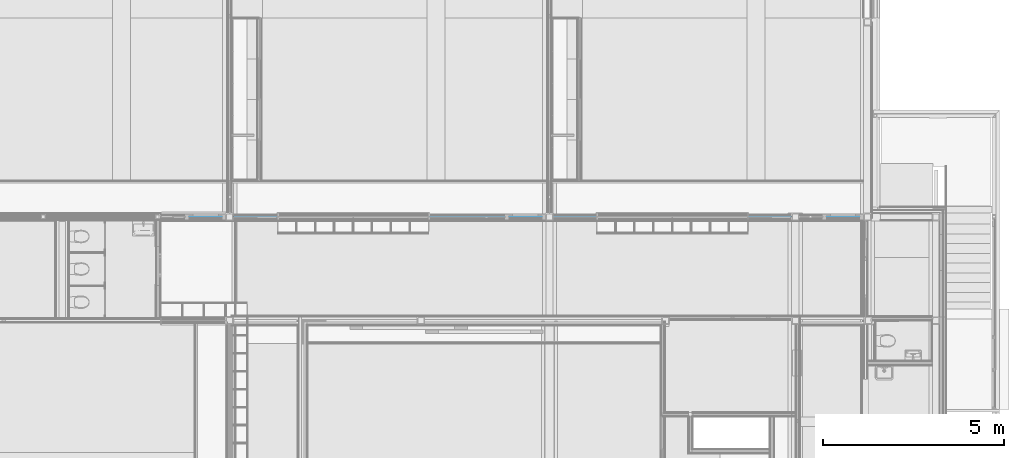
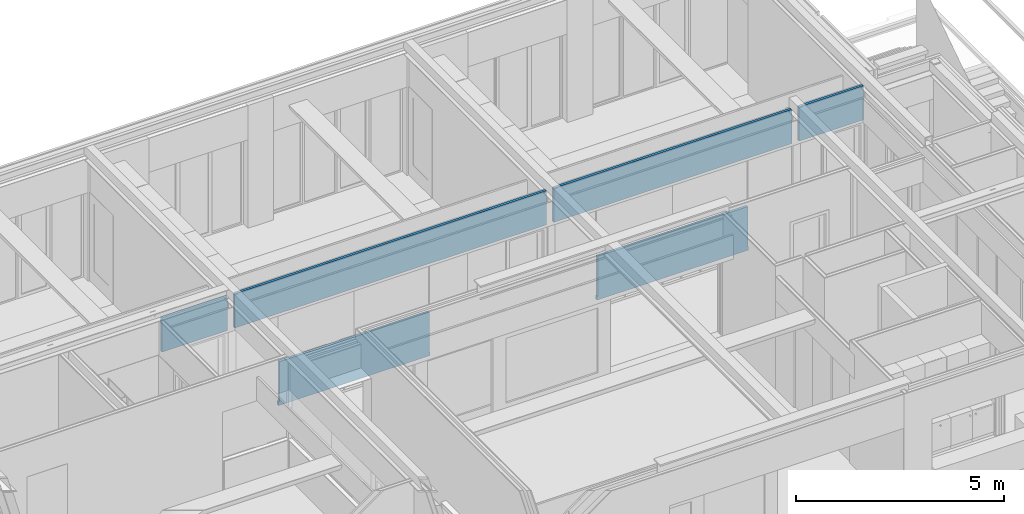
# One storey, part 32 of 165: 1 building element part, 14 openings, 1 element without a shape of its own.
"""IFC2X3 building model written with IfcOpenShell, lengths in millimetres."""

import ifcopenshell
import ifcopenshell.guid

model = None  # the IFC model being written
_history = None  # IfcOwnerHistory: only IFC2X3 demands one
_inside = {}  # id of a spatial element -> (the spatial element, [elements in it])
_under = {}  # id of a project, library or spatial element -> (it, [spatial elements below it])
_declared = {}  # id of a project -> (the project, [libraries it declares])
_typed = {}  # id of a type object -> (the type object, [elements of that type])
_made_of = {}  # id of a material, layer set ... -> (it, [elements and type objects made of it])


def new_model(schema):
    """Start an empty IFC model of exactly this schema.

    Asked for "IFC4X3", IfcOpenShell would pick the latest addendum, in which some entities
    have other attributes; the version numbers below select the first issue.
    IFC2X3 requires an IfcOwnerHistory on every rooted entity: one is made here for all.
    """
    global model, _history
    if schema == "IFC4X3":
        model = ifcopenshell.file(schema_version=(4, 3, 0, 0))
    else:
        model = ifcopenshell.file(schema=schema)
    _inside.clear()
    _under.clear()
    _declared.clear()
    _typed.clear()
    _made_of.clear()
    _history = None
    if model.schema == "IFC2X3":
        org = make("IfcOrganization", Name="unknown")
        user = make(
            "IfcPersonAndOrganization",
            ThePerson=make("IfcPerson", FamilyName="unknown"),
            TheOrganization=org,
        )
        app = make(
            "IfcApplication",
            ApplicationDeveloper=org,
            Version="unknown",
            ApplicationFullName="unknown",
            ApplicationIdentifier="unknown",
        )
        _history = make(
            "IfcOwnerHistory",
            OwningUser=user,
            OwningApplication=app,
            ChangeAction="ADDED",
            CreationDate=0,
        )
    return model


def make(cls, **values):
    """One entity of the class cls with the attributes given. An attribute that is None is left unset."""
    return model.create_entity(
        cls, **{name: value for name, value in values.items() if value is not None}
    )


def entity(cls, *values):
    """Any entity or typed value of the class cls, its attributes in the order of the schema. None: left unset."""
    e = model.create_entity(cls)
    for i, value in enumerate(values):
        if value is not None:
            e[i] = value
    return e


def rooted(cls, **values):
    """An entity with a GlobalId (a new one), such as an element, a storey or a relation."""
    return make(cls, GlobalId=ifcopenshell.guid.new(), OwnerHistory=_history, **values)


def si_unit(unit_type, name, prefix=None):
    """IfcSIUnit, for example si_unit("LENGTHUNIT", "METRE", prefix="MILLI")."""
    return make("IfcSIUnit", UnitType=unit_type, Prefix=prefix, Name=name)


def converted_unit(unit_type, name, factor, base, dimensions=None, offset=None):
    """IfcConversionBasedUnit, such as the inch: factor (a typed value) times the base unit."""
    return make(
        "IfcConversionBasedUnit"
        if offset is None
        else "IfcConversionBasedUnitWithOffset",
        ConversionOffset=offset,
        Dimensions=None
        if dimensions is None
        else entity("IfcDimensionalExponents", *dimensions),
        UnitType=unit_type,
        Name=name,
        ConversionFactor=make(
            "IfcMeasureWithUnit", ValueComponent=factor, UnitComponent=base
        ),
    )


def derived_unit(unit_type, elements):
    """IfcDerivedUnit: a product of units, each with its exponent."""
    return make(
        "IfcDerivedUnit",
        Elements=[
            make("IfcDerivedUnitElement", Unit=unit, Exponent=power)
            for unit, power in elements
        ],
        UnitType=unit_type,
    )


def money_unit(currency):
    """IfcMonetaryUnit."""
    return make("IfcMonetaryUnit", Currency=currency)


def assignment(units):
    """IfcUnitAssignment: the units of a project."""
    return None if units is None else make("IfcUnitAssignment", Units=units)


def point(xyz):
    """IfcCartesianPoint."""
    return None if xyz is None else make("IfcCartesianPoint", Coordinates=xyz)


def direction(xyz):
    """IfcDirection."""
    return None if xyz is None else make("IfcDirection", DirectionRatios=xyz)


def frame(location, z_axis=None, x_axis=None):
    """IfcAxis2Placement3D, a coordinate frame: its origin and axes. An axis left out is left unset."""
    return make(
        "IfcAxis2Placement3D",
        Location=point(location),
        Axis=direction(z_axis),
        RefDirection=direction(x_axis),
    )


def origin_with_axes():
    """The frame at (0, 0, 0) with the z axis (0, 0, 1) and the x axis (1, 0, 0) written out."""
    return frame((0.0, 0.0, 0.0), z_axis=(0.0, 0.0, 1.0), x_axis=(1.0, 0.0, 0.0))


def place(relative_to, where):
    """IfcLocalPlacement: puts the frame where relative to a parent placement (None: the world)."""
    return make(
        "IfcLocalPlacement", PlacementRelTo=relative_to, RelativePlacement=where
    )


def context(
    kind, dimensions, precision=None, world=None, true_north=None, identifier=None
):
    """IfcGeometricRepresentationContext, for example the 3D "Model" context."""
    return make(
        "IfcGeometricRepresentationContext",
        ContextIdentifier=identifier,
        ContextType=kind,
        CoordinateSpaceDimension=dimensions,
        Precision=precision,
        WorldCoordinateSystem=world,
        TrueNorth=true_north,
    )


def subcontext(parent, identifier, kind, view, scale=None):
    """IfcGeometricRepresentationSubContext, for example "Body" below "Model"."""
    return make(
        "IfcGeometricRepresentationSubContext",
        ContextIdentifier=identifier,
        ContextType=kind,
        ParentContext=parent,
        TargetScale=scale,
        TargetView=view,
    )


def project(units=None, contexts=None):
    """IfcProject with its units and contexts."""
    return rooted(
        "IfcProject",
        Name="project",
        RepresentationContexts=contexts,
        UnitsInContext=assignment(units),
    )


def spatial(cls, under=None, at=None, **own):
    """A site, building, storey or space (cls), placed at a placement, below another one or the project."""
    s = rooted(cls, ObjectPlacement=at, **own)
    if under is not None:
        _under.setdefault(under.id(), (under, []))[1].append(s)
    return s


def faces_of(points, faces, orient=None, outer=None):
    """IfcFace entities. A face is a list of loops; a loop is a list of indices into points, from 0.

    orient and outer hold one flag for each loop. By default every Orientation is true, the
    first loop of a face is its IfcFaceOuterBound and the others are IfcFaceBound.
    """
    made = []
    for i, loops in enumerate(faces):
        bounds = []
        for j, loop in enumerate(loops):
            is_outer = j == 0 if outer is None else outer[i][j]
            bounds.append(
                make(
                    "IfcFaceOuterBound" if is_outer else "IfcFaceBound",
                    Bound=make("IfcPolyLoop", Polygon=[points[k] for k in loop]),
                    Orientation=True if orient is None else orient[i][j],
                )
            )
        made.append(make("IfcFace", Bounds=bounds))
    return made


def faceted_brep(points, faces, orient=None, outer=None, voids=None):
    """IfcFacetedBrep: a solid bounded by flat faces; with voids (closed shells), ...WithVoids."""
    shared = [point(p) for p in points]
    hull = make("IfcClosedShell", CfsFaces=faces_of(shared, faces, orient, outer))
    if voids is None:
        return make("IfcFacetedBrep", Outer=hull)
    return make(
        "IfcFacetedBrepWithVoids",
        Outer=hull,
        Voids=[
            make(cls, CfsFaces=faces_of(shared, fs, o, b)) for cls, fs, o, b in voids
        ],
    )


def shape(context_of_items, identifier, shape_type, items):
    """IfcShapeRepresentation: the items that make up one representation, for example the "Body"."""
    return make(
        "IfcShapeRepresentation",
        ContextOfItems=context_of_items,
        RepresentationIdentifier=identifier,
        RepresentationType=shape_type,
        Items=items,
    )


def material(Name=None, Category=None):
    """IfcMaterial."""
    return make("IfcMaterial", Name=Name, Category=Category)


def made_of(thing, what):
    """Note that an element or type object is made of a material, layer set ...; save() writes the relation."""
    if what is not None:
        _made_of.setdefault(what.id(), (what, []))[1].append(thing)
    return thing


def type_object(cls, material=None, **own):
    """A type object (cls), such as IfcWallType, which elements share."""
    return made_of(rooted(cls, **own), material)


def element(
    cls,
    number,
    at=None,
    inside=None,
    cuts=None,
    type_object=None,
    material=None,
    context=None,
    identifier="Body",
    shape_type=None,
    held_by="IfcProductDefinitionShape",
    body=None,
    shapes=None,
    **own,
):
    """One element of the class cls, such as IfcWall. Its Tag is "e" and its number.

    at: its placement. inside: the storey or other place that contains it. cuts: it is an
    opening in that element (IfcRelVoidsElement). A single representation is given by context,
    identifier, shape_type and body (its items); several are given by shapes. held_by: the class
    of the entity that holds the representations. save() writes the other relations.
    """
    e = rooted(cls, Tag="e%d" % number, ObjectPlacement=at, **own)
    if body is not None:
        shapes = [shape(context, identifier, shape_type, body)]
    if shapes is not None:
        e.Representation = make(held_by, Representations=shapes)
    if inside is not None:
        _inside.setdefault(inside.id(), (inside, []))[1].append(e)
    if cuts is not None:
        rooted(
            "IfcRelVoidsElement", RelatingBuildingElement=cuts, RelatedOpeningElement=e
        )
    if type_object is not None:
        _typed.setdefault(type_object.id(), (type_object, []))[1].append(e)
    return made_of(e, material)


def aggregate(whole, parts):
    """IfcRelAggregates: a whole, such as a stair, and the parts it consists of."""
    return rooted("IfcRelAggregates", RelatingObject=whole, RelatedObjects=parts)


def save(model, path):
    """Write the relations noted so far, then the file.

    IfcRelAggregates (storeys below a building ...), IfcRelContainedInSpatialStructure (elements
    in a storey), IfcRelDefinesByType, IfcRelAssociatesMaterial and IfcRelDeclares: one each for
    every whole, place, type object, material and project.
    """
    for whole, parts in _under.values():
        aggregate(whole, parts)
    for where, things in _inside.values():
        rooted(
            "IfcRelContainedInSpatialStructure",
            RelatedElements=things,
            RelatingStructure=where,
        )
    for kind, things in _typed.values():
        rooted("IfcRelDefinesByType", RelatedObjects=things, RelatingType=kind)
    for what, things in _made_of.values():
        rooted("IfcRelAssociatesMaterial", RelatedObjects=things, RelatingMaterial=what)
    for by, libraries in _declared.values():
        rooted("IfcRelDeclares", RelatingContext=by, RelatedDefinitions=libraries)
    model.write(path)


model = new_model("IFC2X3")

# Units and contexts
model_context = context("Model", 3, precision=0.01, world=origin_with_axes(), true_north=direction((0.0, 1.0)))
body_context = subcontext(model_context, "Body", "Model", "MODEL_VIEW")
ifc_project = project(units=[si_unit("LENGTHUNIT", "METRE", prefix="MILLI"), si_unit("AREAUNIT", "SQUARE_METRE"), si_unit("VOLUMEUNIT", "CUBIC_METRE"), converted_unit("PLANEANGLEUNIT", "DEGREE", entity("IfcPlaneAngleMeasure", 0.0174532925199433), si_unit("PLANEANGLEUNIT", "RADIAN"), dimensions=[0, 0, 0, 0, 0, 0, 0]), money_unit("EUR"), converted_unit("TIMEUNIT", "Year", entity("IfcTimeMeasure", 31556926.0), si_unit("TIMEUNIT", "SECOND"), dimensions=[0, 0, 1, 0, 0, 0, 0]), si_unit("MASSUNIT", "GRAM", prefix="KILO"), si_unit("THERMODYNAMICTEMPERATUREUNIT", "DEGREE_CELSIUS"), si_unit("LUMINOUSINTENSITYUNIT", "LUMEN"), si_unit("ENERGYUNIT", "JOULE", prefix="MEGA"), derived_unit("THERMALCONDUCTANCEUNIT", [(si_unit("POWERUNIT", "WATT"), 1), (si_unit("LENGTHUNIT", "METRE"), -1), (si_unit("THERMODYNAMICTEMPERATUREUNIT", "KELVIN"), -1)]), derived_unit("SPECIFICHEATCAPACITYUNIT", [(si_unit("ENERGYUNIT", "JOULE"), 1), (si_unit("MASSUNIT", "GRAM", prefix="KILO"), -1), (si_unit("THERMODYNAMICTEMPERATUREUNIT", "KELVIN"), -1)]), derived_unit("MASSDENSITYUNIT", [(si_unit("MASSUNIT", "GRAM", prefix="KILO"), 1), (si_unit("VOLUMEUNIT", "CUBIC_METRE"), -1)])], contexts=[model_context])

# Site, building, storey
site_placement = place(None, origin_with_axes())
site = spatial("IfcSite", under=ifc_project, at=site_placement, Name="Site", CompositionType="ELEMENT")
building_placement = place(site_placement, origin_with_axes())
building = spatial("IfcBuilding", under=site, at=building_placement, Name="Naam gebouw", CompositionType="ELEMENT")
storey_placement = place(building_placement, origin_with_axes())
storey = spatial("IfcBuildingStorey", under=building, at=storey_placement, Name="Begane grond", CompositionType="ELEMENT", Elevation=0.0)

# Proxy, openings, building element part
building_element_proxy_type = type_object("IfcBuildingElementProxyType", Name="22 Metal stud 125 gips 125", PredefinedType="NOTDEFINED")
proxy_placement = place(storey_placement, frame((6940.0, 22324.99474661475, -100.0), z_axis=(0.0, 0.0, 1.0), x_axis=(0.9999999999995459, -9.530261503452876e-07, 0.0)))
proxy = element("IfcBuildingElementProxy", 1, at=proxy_placement, inside=storey, type_object=building_element_proxy_type, Name="_Wand-x")
opening_1_placement = place(proxy_placement, frame((11459.99904000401, 0.0, 100.0), z_axis=(0.0, 0.0, 1.0), x_axis=(1.0, 0.0, 0.0)))
element("IfcOpeningElement", 2, at=opening_1_placement, cuts=proxy, Name="_B.01", context=body_context, shape_type="Brep", body=[
    faceted_brep([(600.0000000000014, -12.50000000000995, -100.0000000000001), (600.0000000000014, -12.50000000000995, 2600.0), (600.0000000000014, -63.51853254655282, 2600.0), (600.0000000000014, -63.51853254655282, -100.0000000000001), (600.0000000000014, 63.51853254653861, -100.0000000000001), (600.0000000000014, 63.51853254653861, 2600.0), (-599.9999999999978, -12.50000000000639, 2600.0), (-599.9999999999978, -63.51853254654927, 2600.0), (-600.0000000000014, 63.51853254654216, 2600.0), (-599.9999999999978, -63.51853254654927, -100.0000000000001), (-599.9999999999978, -12.50000000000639, -100.0000000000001), (-600.0000000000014, 63.51853254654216, -100.0000000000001)], [[[0, 1, 2, 3]], [[1, 0, 4, 5]], [[6, 7, 2, 1, 5, 8]], [[7, 9, 3, 2]], [[0, 3, 9, 10, 11, 4]], [[5, 4, 11, 8]], [[6, 10, 9, 7]], [[10, 6, 8, 11]]]),
])
opening_2_placement = place(proxy_placement, frame((7954.999824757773, 0.0, 100.0), z_axis=(0.0, 0.0, 1.0), x_axis=(1.0, 0.0, 0.0)))
element("IfcOpeningElement", 3, at=opening_2_placement, cuts=proxy, Name="_B.06", context=body_context, shape_type="Brep", body=[
    faceted_brep([(524.9998247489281, -12.50000000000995, -100.0000000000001), (524.9998247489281, -12.50000000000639, 2600.0), (524.9998247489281, -63.51853254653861, 2600.0), (524.9998247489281, -63.51853254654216, -100.0000000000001), (524.9998247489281, 63.5185325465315, -100.0000000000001), (524.9998247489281, 63.51853254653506, 2600.0), (-524.9998247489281, -12.50000000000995, 2600.0), (-524.9998247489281, -63.51853254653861, 2600.0), (-524.9998247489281, 63.51853254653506, 2600.0), (-524.9998247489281, -63.51853254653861, -100.0000000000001), (-524.9998247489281, -12.50000000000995, -100.0000000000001), (-524.9998247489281, 63.51853254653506, -100.0000000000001)], [[[0, 1, 2, 3]], [[1, 0, 4, 5]], [[6, 7, 2, 1, 5, 8]], [[7, 9, 3, 2]], [[0, 3, 9, 10, 11, 4]], [[5, 4, 11, 8]], [[6, 10, 9, 7]], [[10, 6, 8, 11]]]),
])
opening_3_placement = place(proxy_placement, frame((16859.99904000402, 0.0, 100.0), z_axis=(0.0, 0.0, 1.0), x_axis=(1.0, 0.0, 0.0)))
element("IfcOpeningElement", 4, at=opening_3_placement, cuts=proxy, Name="_B.01", context=body_context, shape_type="Brep", body=[
    faceted_brep([(599.9999999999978, -12.50000000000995, -100.0000000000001), (599.9999999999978, -12.50000000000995, 2600.0), (599.9999999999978, -63.51853254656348, 2600.0), (599.9999999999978, -63.51853254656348, -100.0000000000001), (599.9999999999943, 63.5185325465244, -100.0000000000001), (599.9999999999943, 63.5185325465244, 2600.0), (-600.0000000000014, -12.50000000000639, 2600.0), (-600.0000000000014, -63.51853254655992, 2600.0), (-600.0000000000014, 63.51853254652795, 2600.0), (-600.0000000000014, -63.51853254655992, -100.0000000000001), (-600.0000000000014, -12.50000000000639, -100.0000000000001), (-600.0000000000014, 63.51853254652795, -100.0000000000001)], [[[0, 1, 2, 3]], [[1, 0, 4, 5]], [[6, 7, 2, 1, 5, 8]], [[7, 9, 3, 2]], [[0, 3, 9, 10, 11, 4]], [[5, 4, 11, 8]], [[6, 10, 9, 7]], [[10, 6, 8, 11]]]),
])
opening_4_placement = place(proxy_placement, frame((13109.999040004, 0.0, 1300.0), z_axis=(0.0, 0.0, 1.0), x_axis=(1.0, 0.0, 0.0)))
element("IfcOpeningElement", 5, at=opening_4_placement, cuts=proxy, Name="_C.01", context=body_context, shape_type="Brep", body=[
    faceted_brep([(1049.999999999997, -12.50000000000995, 0.0), (1049.999999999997, -12.50000000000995, 1400.0), (1049.999999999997, -63.51853254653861, 1400.0), (1049.999999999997, -63.51853254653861, 0.0), (1049.999999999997, 63.51853254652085, 0.0), (1049.999999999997, 63.51853254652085, 1400.0), (-1049.99999999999, -12.50000000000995, 1400.0), (-1049.999999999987, -63.51853254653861, 1400.0), (-1049.99999999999, 63.5185325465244, 1400.0), (-1049.999999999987, -63.51853254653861, 0.0), (-1049.99999999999, -12.50000000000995, 0.0), (-1049.99999999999, 63.5185325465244, 0.0)], [[[0, 1, 2, 3]], [[1, 0, 4, 5]], [[6, 7, 2, 1, 5, 8]], [[7, 9, 3, 2]], [[0, 3, 9, 10, 11, 4]], [[5, 4, 11, 8]], [[6, 10, 9, 7]], [[10, 6, 8, 11]]]),
])
opening_5_placement = place(proxy_placement, frame((15209.99904000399, 0.0, 1300.000000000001), z_axis=(0.0, 0.0, 1.0), x_axis=(1.0, 0.0, 0.0)))
element("IfcOpeningElement", 6, at=opening_5_placement, cuts=proxy, Name="_C.01", context=body_context, shape_type="Brep", body=[
    faceted_brep([(1050.000000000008, -12.5000000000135, 0.0), (1050.000000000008, -12.5000000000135, 1400.0), (1050.000000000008, -63.51853254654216, 1400.0), (1050.000000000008, -63.51853254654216, 0.0), (1050.000000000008, 63.51853254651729, 0.0), (1050.000000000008, 63.51853254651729, 1400.0), (-1050.000000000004, -12.50000000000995, 1400.0), (-1050.000000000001, -63.51853254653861, 1400.0), (-1050.000000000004, 63.51853254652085, 1400.0), (-1050.000000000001, -63.51853254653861, 0.0), (-1050.000000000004, -12.50000000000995, 0.0), (-1050.000000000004, 63.51853254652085, 0.0)], [[[0, 1, 2, 3]], [[1, 0, 4, 5]], [[6, 7, 2, 1, 5, 8]], [[7, 9, 3, 2]], [[0, 3, 9, 10, 11, 4]], [[5, 4, 11, 8]], [[6, 10, 9, 7]], [[10, 6, 8, 11]]]),
])
opening_6_placement = place(proxy_placement, frame((2620.000000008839, 0.0, 100.0), z_axis=(0.0, 0.0, 1.0), x_axis=(1.0, 0.0, 0.0)))
element("IfcOpeningElement", 7, at=opening_6_placement, cuts=proxy, Name="_B.03", context=body_context, shape_type="Brep", body=[
    faceted_brep([(610.0000000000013, -12.50000000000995, -100.0000000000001), (610.0000000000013, -12.50000000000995, 2600.0), (610.0000000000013, -63.51853254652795, 2600.0), (610.0000000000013, -63.51853254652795, -100.0000000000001), (610.0000000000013, 63.51853254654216, -100.0000000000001), (610.0000000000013, 63.51853254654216, 2600.0), (-610.0000000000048, -12.50000000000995, 2600.0), (-610.0000000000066, -63.51853254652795, 2600.0), (-610.0000000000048, 63.51853254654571, 2600.0), (-610.0000000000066, -63.51853254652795, -100.0000000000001), (-610.0000000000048, -12.50000000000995, -100.0000000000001), (-610.0000000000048, 63.51853254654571, -100.0000000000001)], [[[0, 1, 2, 3]], [[1, 0, 4, 5]], [[6, 7, 2, 1, 5, 8]], [[7, 9, 3, 2]], [[0, 3, 9, 10, 11, 4]], [[5, 4, 11, 8]], [[6, 10, 9, 7]], [[10, 6, 8, 11]]]),
])
opening_7_placement = place(proxy_placement, frame((4280.000000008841, 0.0, 1300.0), z_axis=(0.0, 0.0, 1.0), x_axis=(1.0, 0.0, 0.0)))
element("IfcOpeningElement", 8, at=opening_7_placement, cuts=proxy, Name="_C.01", context=body_context, shape_type="Brep", body=[
    faceted_brep([(1049.999999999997, -12.50000000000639, 0.0), (1049.999999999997, -12.50000000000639, 1400.0), (1049.999999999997, -63.5185325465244, 1400.0), (1049.999999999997, -63.5185325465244, 0.0), (1049.999999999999, 63.51853254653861, 0.0), (1049.999999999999, 63.51853254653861, 1400.0), (-1049.999999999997, -12.50000000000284, 1400.0), (-1049.999999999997, -63.51853254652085, 1400.0), (-1049.999999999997, 63.51853254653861, 1400.0), (-1049.999999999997, -63.51853254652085, 0.0), (-1049.999999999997, -12.50000000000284, 0.0), (-1049.999999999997, 63.51853254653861, 0.0)], [[[0, 1, 2, 3]], [[1, 0, 4, 5]], [[6, 7, 2, 1, 5, 8]], [[7, 9, 3, 2]], [[0, 3, 9, 10, 11, 4]], [[5, 4, 11, 8]], [[6, 10, 9, 7]], [[10, 6, 8, 11]]]),
])
opening_8_placement = place(proxy_placement, frame((9004.999474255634, 0.0, 100.0), z_axis=(0.0, 0.0, 1.0), x_axis=(1.0, 0.0, 0.0)))
element("IfcOpeningElement", 9, at=opening_8_placement, cuts=proxy, Name="_B.06", context=body_context, shape_type="Brep", body=[
    faceted_brep([(524.9998247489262, -12.50000000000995, -100.0000000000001), (524.9998247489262, -12.50000000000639, 2600.0), (524.9998247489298, -63.51853254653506, 2600.0), (524.9998247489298, -63.51853254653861, -100.0000000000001), (524.9998247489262, 63.51853254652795, -100.0000000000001), (524.9998247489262, 63.5185325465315, 2600.0), (-524.9998247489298, -12.50000000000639, 2600.0), (-524.9998247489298, -63.51853254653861, 2600.0), (-524.9998247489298, 63.5185325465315, 2600.0), (-524.9998247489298, -63.51853254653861, -100.0000000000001), (-524.9998247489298, -12.50000000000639, -100.0000000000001), (-524.9998247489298, 63.5185325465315, -100.0000000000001)], [[[0, 1, 2, 3]], [[1, 0, 4, 5]], [[6, 7, 2, 1, 5, 8]], [[7, 9, 3, 2]], [[0, 3, 9, 10, 11, 4]], [[5, 4, 11, 8]], [[6, 10, 9, 7]], [[10, 6, 8, 11]]]),
])
opening_9_placement = place(proxy_placement, frame((17987.99955956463, 0.0, 100.0), z_axis=(0.0, 0.0, 1.0), x_axis=(1.0, 0.0, 0.0)))
element("IfcOpeningElement", 10, at=opening_9_placement, cuts=proxy, Name="_B.09", context=body_context, shape_type="Brep", body=[
    faceted_brep([(-328.0004950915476, 12.49999999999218, -100.0000000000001), (-328.0004950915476, 12.49999999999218, 2600.0), (-328.0004950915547, 63.51853254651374, 2600.0), (-328.0004950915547, 63.51853254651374, -100.0000000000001), (-328.0004950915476, -63.51853254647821, -100.0000000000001), (-328.0004950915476, -63.51853254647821, 2600.0), (328.0004950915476, 12.49999999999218, 2600.0), (328.0004950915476, 63.51853254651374, 2600.0), (328.0004950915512, -63.51853254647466, 2600.0), (328.0004950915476, 63.51853254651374, -100.0000000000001), (328.0004950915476, 12.49999999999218, -100.0000000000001), (328.0004950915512, -63.51853254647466, -100.0000000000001)], [[[0, 1, 2, 3]], [[1, 0, 4, 5]], [[6, 7, 2, 1, 5, 8]], [[7, 9, 3, 2]], [[0, 3, 9, 10, 11, 4]], [[5, 4, 11, 8]], [[6, 10, 9, 7]], [[10, 6, 8, 11]]]),
])
opening_10_placement = place(proxy_placement, frame((18881.00000000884, 0.0, 100.0), z_axis=(0.0, 0.0, 1.0), x_axis=(1.0, 0.0, 0.0)))
element("IfcOpeningElement", 11, at=opening_10_placement, cuts=proxy, Name="_01.01", context=body_context, shape_type="Brep", body=[
    faceted_brep([(-564.9999999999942, -63.51853254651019, 2600.0), (-564.9999999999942, -63.51853254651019, -100.0000000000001), (565.0000000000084, -63.51853254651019, -100.0000000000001), (565.0000000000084, -63.51853254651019, 2600.0), (-564.9999999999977, 63.51853254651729, 2600.0), (-564.9999999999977, 63.51853254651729, -100.0000000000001), (565.0000000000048, 63.51853254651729, -100.0000000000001), (565.0000000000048, 63.51853254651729, 2600.0)], [[[0, 1, 2, 3]], [[4, 5, 1, 0]], [[5, 6, 2, 1]], [[6, 7, 3, 2]], [[7, 4, 0, 3]], [[6, 5, 4, 7]]]),
])
opening_11_placement = place(proxy_placement, frame((10094.99953887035, 0.0, 100.0), z_axis=(0.0, 0.0, 1.0), x_axis=(1.0, 0.0, 0.0)))
element("IfcOpeningElement", 12, at=opening_11_placement, cuts=proxy, Name="_01.01", context=body_context, shape_type="Brep", body=[
    faceted_brep([(-564.9999999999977, -63.51853254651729, 2600.0), (-564.9999999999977, -63.51853254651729, -100.0000000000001), (565.0000000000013, -63.51853254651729, -100.0000000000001), (565.0000000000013, -63.51853254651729, 2600.0), (-565.0000000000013, 63.51853254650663, 2600.0), (-565.0000000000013, 63.51853254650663, -100.0000000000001), (565.0000000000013, 63.51853254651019, -100.0000000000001), (565.0000000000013, 63.51853254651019, 2600.0)], [[[0, 1, 2, 3]], [[4, 5, 1, 0]], [[5, 6, 2, 1]], [[6, 7, 3, 2]], [[7, 4, 0, 3]], [[6, 5, 4, 7]]]),
])
opening_12_placement = place(proxy_placement, frame((6380.000000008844, 0.0, 1300.0), z_axis=(0.0, 0.0, 1.0), x_axis=(1.0, 0.0, 0.0)))
element("IfcOpeningElement", 13, at=opening_12_placement, cuts=proxy, Name="_C.01", context=body_context, shape_type="Brep", body=[
    faceted_brep([(1050.000000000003, -12.50000000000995, 0.0), (1050.000000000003, -12.50000000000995, 1400.0), (1050.000000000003, -63.51853254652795, 1400.0), (1050.000000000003, -63.51853254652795, 0.0), (1050.000000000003, 63.51853254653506, 0.0), (1050.000000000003, 63.51853254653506, 1400.0), (-1050.000000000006, -12.50000000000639, 1400.0), (-1050.000000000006, -63.5185325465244, 1400.0), (-1050.000000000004, 63.51853254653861, 1400.0), (-1050.000000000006, -63.5185325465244, 0.0), (-1050.000000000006, -12.50000000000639, 0.0), (-1050.000000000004, 63.51853254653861, 0.0)], [[[0, 1, 2, 3]], [[1, 0, 4, 5]], [[6, 7, 2, 1, 5, 8]], [[7, 9, 3, 2]], [[0, 3, 9, 10, 11, 4]], [[5, 4, 11, 8]], [[6, 10, 9, 7]], [[10, 6, 8, 11]]]),
])
opening_13_placement = place(proxy_placement, frame((1245.000071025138, 0.0, 100.0), z_axis=(0.0, 0.0, 1.0), x_axis=(1.0, 0.0, 0.0)))
element("IfcOpeningElement", 14, at=opening_13_placement, cuts=proxy, Name="_01.01", context=body_context, shape_type="Brep", body=[
    faceted_brep([(-565.0000000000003, -63.51853254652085, 2600.0), (-565.0000000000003, -63.51853254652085, -100.0000000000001), (564.9999999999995, -63.51853254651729, -100.0000000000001), (564.9999999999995, -63.51853254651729, 2600.0), (-565.0000000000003, 63.51853254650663, 2600.0), (-565.0000000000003, 63.51853254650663, -100.0000000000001), (564.9999999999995, 63.51853254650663, -100.0000000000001), (564.9999999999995, 63.51853254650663, 2600.0)], [[[0, 1, 2, 3]], [[4, 5, 1, 0]], [[5, 6, 2, 1]], [[6, 7, 3, 2]], [[7, 4, 0, 3]], [[6, 5, 4, 7]]]),
])
opening_14_placement = place(proxy_placement, frame((340.0001105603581, 0.0, 100.0), z_axis=(0.0, 0.0, 1.0), x_axis=(1.0, 0.0, 0.0)))
element("IfcOpeningElement", 15, at=opening_14_placement, cuts=proxy, Name="_B.07", context=body_context, shape_type="Brep", body=[
    faceted_brep([(-339.9999604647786, 12.49999999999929, -100.0000000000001), (-339.9999604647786, 12.49999999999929, 2600.0), (-339.9999604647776, 63.51853254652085, 2600.0), (-339.9999604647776, 63.51853254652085, -100.0000000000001), (-339.9999604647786, -63.51853254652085, -100.0000000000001), (-339.9999604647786, -63.51853254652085, 2600.0), (339.9999604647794, 12.49999999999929, 2600.0), (339.9999604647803, 63.51853254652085, 2600.0), (339.9999604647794, -63.5185325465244, 2600.0), (339.9999604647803, 63.51853254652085, -100.0000000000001), (339.9999604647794, 12.49999999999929, -100.0000000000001), (339.9999604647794, -63.5185325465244, -100.0000000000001)], [[[0, 1, 2, 3]], [[1, 0, 4, 5]], [[6, 7, 2, 1, 5, 8]], [[7, 9, 3, 2]], [[0, 3, 9, 10, 11, 4]], [[5, 4, 11, 8]], [[6, 10, 9, 7]], [[10, 6, 8, 11]]]),
])
ifc_material = material(Name="ALG - LICHTE SCHEIDINGSWAND")
building_element_part_placement = place(proxy_placement, origin_with_axes())
building_element_part = element("IfcBuildingElementPart", 16, at=building_element_part_placement, material=ifc_material, Name="ALG - LICHTE SCHEIDINGSWAND", context=body_context, shape_type="Brep", body=[
    faceted_brep([(7409.99996426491, 37.49999999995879, 1280.000000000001), (7409.99996426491, 37.49999999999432, 100.0), (7429.999964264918, 37.49999999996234, 100.0), (7430.000000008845, 37.49999999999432, 0.0), (3230.000000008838, 37.49999999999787, 0.0), (3229.999916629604, 37.50000000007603, 100.0), (3249.999916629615, 37.49999999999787, 100.0), (3249.999916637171, 37.49999999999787, 1280.000000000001), (7410.000035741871, -37.499999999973, 1280.000000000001), (7410.000035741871, -37.499999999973, 100.0), (7430.000035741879, -37.49999999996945, 100.0), (7430.000000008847, -37.50000000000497, 0.0), (3230.00000000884, -37.50000000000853, 0.0), (3229.99984515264, -37.49999999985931, 100.0), (3249.999845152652, -37.50000000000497, 100.0), (3249.999845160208, -37.50000000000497, 1280.000000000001)], [[[0, 1, 2, 3, 4, 5, 6, 7]], [[1, 0, 8, 9]], [[10, 2, 1, 9]], [[2, 10, 11, 3]], [[12, 4, 3, 11]], [[4, 12, 13, 5]], [[13, 14, 6, 5]], [[14, 15, 7, 6]], [[8, 0, 7, 15]], [[9, 8, 15, 14, 13, 12, 11, 10]]]),
    faceted_brep([(10659.99946031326, -37.50000000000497, 3675.000002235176), (10659.99953887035, -37.50000000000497, 2700.0), (10659.99953887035, 37.49999999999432, 2700.0), (10659.9993888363, 37.49999999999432, 3675.000002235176), (2010.000000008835, -37.50000000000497, 2700.0), (10559.99946031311, -37.50000000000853, 3675.000002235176), (10559.99946031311, -37.50000000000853, 3695.000002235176), (10656.99946031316, -37.50000000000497, 3695.000002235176), (10656.99946031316, -37.50000000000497, 3700.0), (2013.000035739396, -37.50000000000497, 3700.0), (2013.000035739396, -37.49999999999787, 3695.000002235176), (2110.000035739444, -37.50000000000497, 3695.000002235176), (2110.000035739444, -37.50000000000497, 3670.000002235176), (2010.000035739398, -37.50000000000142, 3670.000002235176), (2010.000000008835, 37.49999999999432, 2700.0), (2009.999964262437, 37.49999999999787, 3670.000002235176), (2109.999964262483, 37.49999999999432, 3670.000002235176), (2109.999964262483, 37.49999999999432, 3695.000002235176), (2012.999964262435, 37.49999999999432, 3695.000002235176), (2012.999964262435, 37.49999999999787, 3700.0), (10656.9993888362, 37.49999999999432, 3700.0), (10656.9993888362, 37.49999999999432, 3695.000002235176), (10559.99938883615, 37.49999999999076, 3695.000002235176), (10559.99938883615, 37.49999999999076, 3675.000002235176)], [[[0, 1, 2, 3]], [[4, 1, 0, 5, 6, 7, 8, 9, 10, 11, 12, 13]], [[14, 2, 1, 4]], [[3, 2, 14, 15, 16, 17, 18, 19, 20, 21, 22, 23]], [[23, 5, 0, 3]], [[22, 6, 5, 23]], [[21, 7, 6, 22]], [[20, 8, 7, 21]], [[20, 19, 9, 8]], [[19, 18, 10, 9]], [[17, 11, 10, 18]], [[16, 12, 11, 17]], [[12, 16, 15, 13]], [[13, 15, 14, 4]]]),
    faceted_brep([(12059.99901617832, 37.50000000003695, 100.0), (12079.99901617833, 37.500000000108, 100.0), (12079.99901618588, 37.500000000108, 1280.000000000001), (16239.99906382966, 37.49999999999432, 1280.000000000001), (16239.99906382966, 37.49999999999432, 100.0), (16259.99906382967, 37.50000000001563, 100.0), (16259.99904000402, 37.49999999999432, 0.0), (12059.99904000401, 37.49999999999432, 0.0), (12059.99894470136, -37.49999999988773, 100.0), (12079.99894470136, -37.50000000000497, 100.0), (12079.99894470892, -37.49999999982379, 1280.000000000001), (16239.99913530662, -37.50000000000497, 1280.000000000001), (16239.99913530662, -37.50000000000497, 100.0), (16259.99913530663, -37.49999999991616, 100.0), (16259.99904000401, -37.50000000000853, 0.0), (12059.99904000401, -37.50000000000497, 0.0)], [[[0, 1, 2, 3, 4, 5, 6, 7]], [[1, 0, 8, 9]], [[10, 2, 1, 9]], [[2, 10, 11, 3]], [[4, 3, 11, 12]], [[4, 12, 13, 5]], [[14, 6, 5, 13]], [[6, 14, 15, 7]], [[8, 0, 7, 15]], [[9, 8, 15, 14, 13, 12, 11, 10]]]),
    faceted_brep([(17459.99904000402, 37.49999999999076, 2700.0), (17459.99904000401, -37.50000000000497, 2700.0), (10859.99904000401, -37.50000000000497, 2700.0), (10859.99904000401, 37.49999999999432, 2700.0), (17459.99900426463, 37.49999999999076, 3680.000029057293), (17459.99907574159, -37.50000000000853, 3680.000029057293), (10959.99946031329, -37.50000000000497, 3695.000002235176), (10959.99946031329, -37.50000000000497, 3675.000002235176), (10859.99946031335, -37.50000000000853, 3675.000002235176), (17359.99907574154, -37.50000000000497, 3680.000029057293), (17359.99907574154, -37.50000000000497, 3695.000029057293), (17458.99907574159, -37.50000000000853, 3695.000029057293), (17458.99907574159, -37.50000000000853, 3700.0), (10862.99946031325, -37.50000000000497, 3700.0), (10862.99946031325, -37.50000000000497, 3695.000002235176), (10859.99938883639, 37.49999999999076, 3675.000002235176), (10959.99938883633, 37.49999999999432, 3675.000002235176), (10959.99938883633, 37.49999999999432, 3695.000002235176), (10862.99938883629, 37.49999999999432, 3695.000002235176), (10862.99938883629, 37.49999999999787, 3700.0), (17458.99900426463, 37.49999999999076, 3700.0), (17458.99900426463, 37.49999999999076, 3695.000029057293), (17359.99900426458, 37.49999999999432, 3695.000029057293), (17359.99900426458, 37.49999999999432, 3680.000029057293)], [[[0, 1, 2, 3]], [[4, 5, 1, 0]], [[6, 7, 8, 2, 1, 5, 9, 10, 11, 12, 13, 14]], [[15, 3, 2, 8]], [[0, 3, 15, 16, 17, 18, 19, 20, 21, 22, 23, 4]], [[9, 5, 4, 23]], [[7, 6, 17, 16]], [[16, 15, 8, 7]], [[10, 9, 23, 22]], [[11, 10, 22, 21]], [[12, 11, 21, 20]], [[12, 20, 19, 13]], [[18, 14, 13, 19]], [[6, 14, 18, 17]]]),
    faceted_brep([(1810.000071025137, -37.50000000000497, 2700.0), (1810.000071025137, 37.49999999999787, 2700.0), (1809.999964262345, 37.49999999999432, 3670.000002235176), (1810.000035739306, -37.50000000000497, 3670.000002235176), (680.0000710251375, 37.49999999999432, 2700.0), (680.0000710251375, -37.50000000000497, 2700.0), (0.000150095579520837, -37.50000000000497, 2700.0), (0.0001500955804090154, 37.49999999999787, 2700.0), (0.0, 37.49999999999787, 3700.0), (1806.999964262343, 37.49999999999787, 3700.0), (1806.999964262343, 37.49999999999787, 3695.000002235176), (1709.999964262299, 37.49999999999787, 3695.000002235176), (1709.999964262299, 37.49999999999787, 3670.000002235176), (1710.000035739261, -37.50000000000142, 3670.000002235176), (1710.000035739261, -37.50000000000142, 3695.000002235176), (1807.000035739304, -37.50000000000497, 3695.000002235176), (1807.000035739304, -37.50000000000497, 3700.0), (0.0, -37.50000000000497, 3700.0)], [[[0, 1, 2, 3]], [[4, 1, 0, 5, 6, 7]], [[1, 4, 7, 8, 9, 10, 11, 12, 2]], [[13, 3, 2, 12]], [[5, 0, 3, 13, 14, 15, 16, 17, 6]], [[17, 8, 7, 6]], [[8, 17, 16, 9]], [[16, 15, 10, 9]], [[15, 14, 11, 10]], [[14, 13, 12, 11]]]),
    faceted_brep([(19446.00000000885, -37.50000000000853, 2700.0), (19446.00000000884, 37.49999999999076, 2700.0), (19446.00000000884, 37.49999999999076, 3393.0), (19446.00000000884, -37.50000000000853, 3393.0), (18316.00000000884, 37.49999999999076, 2700.0), (18316.00000000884, -37.50000000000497, 2700.0), (17659.99906447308, -37.50000000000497, 2700.0), (17659.99906447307, 37.49999999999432, 2700.0), (17659.99900426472, 37.49999999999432, 3680.000029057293), (17759.99900426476, 37.49999999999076, 3680.000029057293), (17759.99900426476, 37.49999999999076, 3695.000029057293), (17660.99900426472, 37.49999999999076, 3695.000029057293), (17660.99900426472, 37.49999999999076, 3700.0), (19446.00000000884, 37.49999999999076, 3700.0), (19446.00000000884, 37.49999999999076, 3695.0), (19360.99995979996, 37.49999999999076, 3695.0), (19360.99995979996, 37.49999999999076, 3683.0), (19446.00000000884, 37.49999999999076, 3683.0), (19446.00000000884, 37.49999999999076, 3405.0), (19443.99996427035, 37.49999999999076, 3405.0), (19443.99996427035, 37.49999999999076, 3393.0), (19444.00003574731, -37.50000000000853, 3393.0), (19444.00003574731, -37.50000000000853, 3405.0), (19446.00000000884, -37.50000000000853, 3405.0), (19446.00000000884, -37.50000000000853, 3683.0), (19361.00003127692, -37.50000000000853, 3683.0), (19361.00003127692, -37.50000000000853, 3695.0), (19446.00000000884, -37.50000000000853, 3695.0), (19446.00000000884, -37.50000000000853, 3700.0), (17660.99907574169, -37.50000000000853, 3700.0), (17660.99907574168, -37.50000000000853, 3695.000029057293), (17759.99907574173, -37.50000000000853, 3695.000029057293), (17759.99907574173, -37.50000000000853, 3680.000029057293), (17659.99907574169, -37.50000000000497, 3680.000029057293)], [[[0, 1, 2, 3]], [[4, 1, 0, 5, 6, 7]], [[1, 4, 7, 8, 9, 10, 11, 12, 13, 14, 15, 16, 17, 18, 19, 20, 2]], [[20, 21, 3, 2]], [[5, 0, 3, 21, 22, 23, 24, 25, 26, 27, 28, 29, 30, 31, 32, 33, 6]], [[33, 8, 7, 6]], [[9, 8, 33, 32]], [[32, 31, 10, 9]], [[31, 30, 11, 10]], [[11, 30, 29, 12]], [[28, 13, 12, 29]], [[13, 28, 27, 14]], [[27, 26, 15, 14]], [[26, 25, 16, 15]], [[16, 25, 24, 17]], [[23, 18, 17, 24]], [[23, 22, 19, 18]], [[22, 21, 20, 19]]]),
])
aggregate(proxy, [building_element_part])

save(model, "model.ifc")
